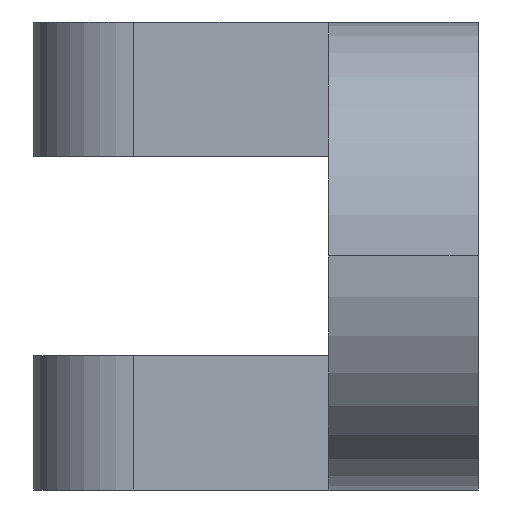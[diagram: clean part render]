
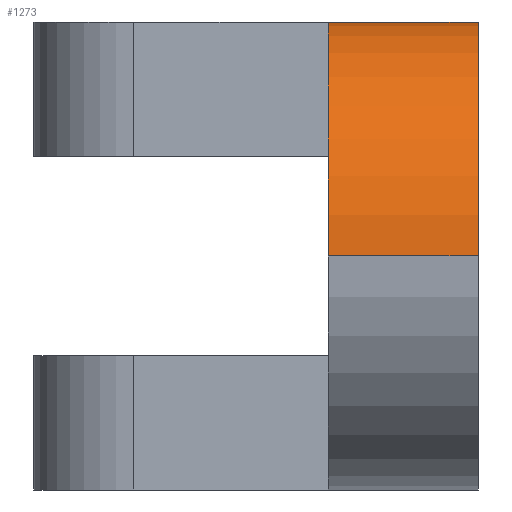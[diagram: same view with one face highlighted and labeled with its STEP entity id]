
A CAD part, left-side view. The second image highlights one B-rep face of the part: STEP entity #1273.
In plain terms, the highlighted cylindrical face has radius 4.763 mm (diameter 9.525 mm), a partial arc.
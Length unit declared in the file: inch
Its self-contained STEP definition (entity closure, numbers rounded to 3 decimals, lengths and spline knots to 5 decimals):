
#41 = DIRECTION ( 'NONE',  ( 0., 1., 0. ) ) ;
#91 = DIRECTION ( 'NONE',  ( 0., 1., 0. ) ) ;
#100 = CARTESIAN_POINT ( 'NONE',  ( -0.6395, 0., 0.1875 ) ) ;
#137 = CARTESIAN_POINT ( 'NONE',  ( -0.6395, 0.12, 0.1875 ) ) ;
#157 = EDGE_CURVE ( 'NONE', #874, #1275, #441, .T. ) ;
#162 = DIRECTION ( 'NONE',  ( 1., 0., 0. ) ) ;
#191 = CARTESIAN_POINT ( 'NONE',  ( -0.6395, 0.94242, 0. ) ) ;
#263 = VECTOR ( 'NONE', #41, 39.37008 ) ;
#320 = ORIENTED_EDGE ( 'NONE', *, *, #1186, .F. ) ;
#343 = CARTESIAN_POINT ( 'NONE',  ( -0.827, 0., 0. ) ) ;
#371 = CARTESIAN_POINT ( 'NONE',  ( -0.6395, 0.12, 0. ) ) ;
#373 = DIRECTION ( 'NONE',  ( 0., 1., 0. ) ) ;
#441 = LINE ( 'NONE', #1081, #263 ) ;
#487 = CIRCLE ( 'NONE', #560, 0.1875 ) ;
#499 = DIRECTION ( 'NONE',  ( 0., 0., 1. ) ) ;
#512 = VERTEX_POINT ( 'NONE', #137 ) ;
#515 = LINE ( 'NONE', #100, #1304 ) ;
#560 = AXIS2_PLACEMENT_3D ( 'NONE', #371, #373, #162 ) ;
#617 = AXIS2_PLACEMENT_3D ( 'NONE', #806, #1223, #708 ) ;
#647 = EDGE_CURVE ( 'NONE', #704, #874, #925, .T. ) ;
#697 = FACE_OUTER_BOUND ( 'NONE', #945, .T. ) ;
#704 = VERTEX_POINT ( 'NONE', #1204 ) ;
#708 = DIRECTION ( 'NONE',  ( 0., 0., 1. ) ) ;
#751 = EDGE_CURVE ( 'NONE', #1275, #512, #487, .T. ) ;
#797 = DIRECTION ( 'NONE',  ( 0., -1., 0. ) ) ;
#806 = CARTESIAN_POINT ( 'NONE',  ( -0.6395, 0., 0. ) ) ;
#874 = VERTEX_POINT ( 'NONE', #343 ) ;
#909 = ORIENTED_EDGE ( 'NONE', *, *, #751, .F. ) ;
#925 = CIRCLE ( 'NONE', #617, 0.1875 ) ;
#945 = EDGE_LOOP ( 'NONE', ( #320, #909, #1137, #1298 ) ) ;
#1013 = CARTESIAN_POINT ( 'NONE',  ( -0.827, 0.12, 0. ) ) ;
#1023 = AXIS2_PLACEMENT_3D ( 'NONE', #191, #91, #499 ) ;
#1081 = CARTESIAN_POINT ( 'NONE',  ( -0.827, 0.12, 0. ) ) ;
#1116 = CYLINDRICAL_SURFACE ( 'NONE', #1023, 0.1875 ) ;
#1137 = ORIENTED_EDGE ( 'NONE', *, *, #157, .F. ) ;
#1186 = EDGE_CURVE ( 'NONE', #512, #704, #515, .T. ) ;
#1204 = CARTESIAN_POINT ( 'NONE',  ( -0.6395, 0., 0.1875 ) ) ;
#1223 = DIRECTION ( 'NONE',  ( 0., -1., 0. ) ) ;
#1273 = ADVANCED_FACE ( 'NONE', ( #697 ), #1116, .T. ) ;
#1275 = VERTEX_POINT ( 'NONE', #1013 ) ;
#1298 = ORIENTED_EDGE ( 'NONE', *, *, #647, .F. ) ;
#1304 = VECTOR ( 'NONE', #797, 39.37008 ) ;
